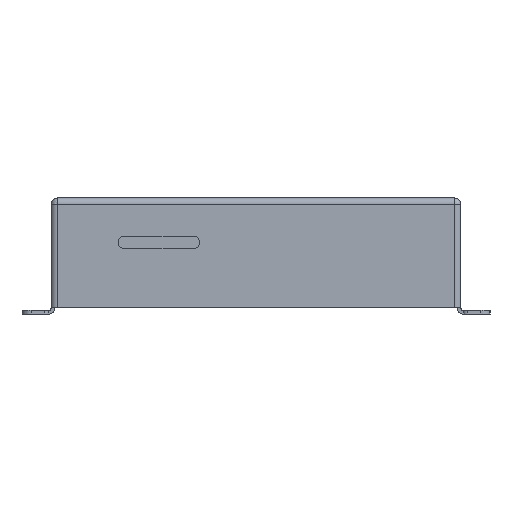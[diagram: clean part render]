
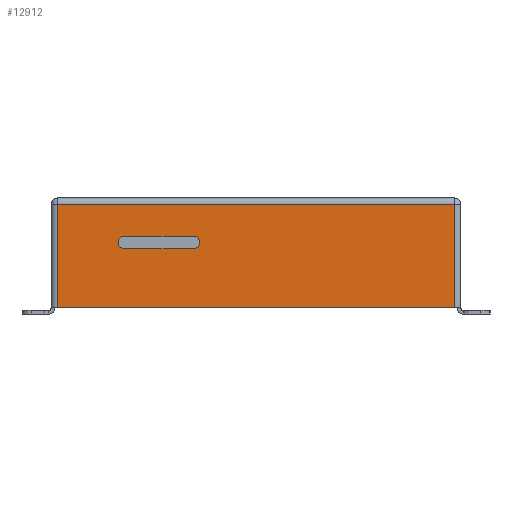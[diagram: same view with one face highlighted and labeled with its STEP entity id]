
A CAD part, left-side view. The second image highlights one B-rep face of the part: STEP entity #12912.
In plain terms, the highlighted planar face has unit normal (-1, 0, 0).
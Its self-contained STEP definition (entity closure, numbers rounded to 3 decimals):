
#4477=DIRECTION('',(0.,-1.,0.));
#4478=VECTOR('',#4477,109.6);
#4479=CARTESIAN_POINT('',(-111.2,54.8,-30.263));
#4480=LINE('',#4479,#4478);
#4691=CARTESIAN_POINT('',(-111.2,36.25,-12.25));
#4692=DIRECTION('',(1.,0.,0.));
#4693=DIRECTION('',(0.,0.,-1.));
#4694=AXIS2_PLACEMENT_3D('',#4691,#4692,#4693);
#4704=DIRECTION('',(0.,0.,-1.));
#4705=VECTOR('',#4704,28.527);
#4706=CARTESIAN_POINT('',(-111.2,54.8,-1.737));
#4707=LINE('',#4706,#4705);
#4708=CARTESIAN_POINT('',(-111.2,54.763,-1.737));
#4709=DIRECTION('',(-1.,0.,0.));
#4710=DIRECTION('',(0.,0.,1.));
#4711=AXIS2_PLACEMENT_3D('',#4708,#4709,#4710);
#4713=DIRECTION('',(0.,1.,0.));
#4714=VECTOR('',#4713,109.527);
#4715=CARTESIAN_POINT('',(-111.2,-54.763,-1.7));
#4716=LINE('',#4715,#4714);
#4717=CARTESIAN_POINT('',(-111.2,-54.763,-1.737));
#4718=DIRECTION('',(-1.,0.,0.));
#4719=DIRECTION('',(0.,-1.,0.));
#4720=AXIS2_PLACEMENT_3D('',#4717,#4718,#4719);
#4722=DIRECTION('',(0.,0.,1.));
#4723=VECTOR('',#4722,28.527);
#4724=CARTESIAN_POINT('',(-111.2,-54.8,-30.263));
#4725=LINE('',#4724,#4723);
#4758=DIRECTION('',(0.,-1.,0.));
#4759=VECTOR('',#4758,19.);
#4760=CARTESIAN_POINT('',(-111.2,36.25,-14.));
#4761=LINE('',#4760,#4759);
#4762=DIRECTION('',(0.,1.,0.));
#4763=VECTOR('',#4762,19.);
#4764=CARTESIAN_POINT('',(-111.2,17.25,-10.5));
#4765=LINE('',#4764,#4763);
#5089=CARTESIAN_POINT('',(-111.2,17.25,-12.25));
#5090=DIRECTION('',(1.,0.,0.));
#5091=DIRECTION('',(0.,0.,1.));
#5092=AXIS2_PLACEMENT_3D('',#5089,#5090,#5091);
#6290=CARTESIAN_POINT('',(-111.2,54.763,-1.7));
#6291=CARTESIAN_POINT('',(-111.2,54.8,-1.737));
#6292=VERTEX_POINT('',#6290);
#6293=VERTEX_POINT('',#6291);
#6298=CARTESIAN_POINT('',(-111.2,-54.763,-1.7));
#6299=VERTEX_POINT('',#6298);
#6302=CARTESIAN_POINT('',(-111.2,-54.8,-1.737));
#6303=VERTEX_POINT('',#6302);
#6338=CARTESIAN_POINT('',(-111.2,36.25,-14.));
#6339=CARTESIAN_POINT('',(-111.2,17.25,-14.));
#6340=VERTEX_POINT('',#6338);
#6341=VERTEX_POINT('',#6339);
#6342=CARTESIAN_POINT('',(-111.2,17.25,-10.5));
#6343=CARTESIAN_POINT('',(-111.2,36.25,-10.5));
#6344=VERTEX_POINT('',#6342);
#6345=VERTEX_POINT('',#6343);
#6610=CARTESIAN_POINT('',(-111.2,54.8,-30.263));
#6612=VERTEX_POINT('',#6610);
#6615=CARTESIAN_POINT('',(-111.2,-54.8,-30.263));
#6617=VERTEX_POINT('',#6615);
#12886=CARTESIAN_POINT('',(-111.2,54.763,-1.737));
#12887=DIRECTION('',(-1.,0.,0.));
#12888=DIRECTION('',(0.,0.,1.));
#12889=AXIS2_PLACEMENT_3D('',#12886,#12887,#12888);
#12890=PLANE('',#12889);
#12892=ORIENTED_EDGE('',*,*,#12891,.F.);
#12894=ORIENTED_EDGE('',*,*,#12893,.F.);
#12896=ORIENTED_EDGE('',*,*,#12895,.F.);
#12898=ORIENTED_EDGE('',*,*,#12897,.F.);
#12900=ORIENTED_EDGE('',*,*,#12899,.F.);
#12901=ORIENTED_EDGE('',*,*,#12565,.F.);
#12902=EDGE_LOOP('',(#12892,#12894,#12896,#12898,#12900,#12901));
#12903=FACE_OUTER_BOUND('',#12902,.F.);
#12904=ORIENTED_EDGE('',*,*,#12865,.F.);
#12905=ORIENTED_EDGE('',*,*,#12877,.T.);
#12907=ORIENTED_EDGE('',*,*,#12906,.F.);
#12909=ORIENTED_EDGE('',*,*,#12908,.T.);
#12910=EDGE_LOOP('',(#12904,#12905,#12907,#12909));
#12911=FACE_BOUND('',#12910,.F.);
#12912=ADVANCED_FACE('',(#12903,#12911),#12890,.T.);
#4695=CIRCLE('',#4694,1.75);
#4712=CIRCLE('',#4711,0.037);
#4721=CIRCLE('',#4720,0.037);
#5093=CIRCLE('',#5092,1.75);
#12565=EDGE_CURVE('',#6612,#6617,#4480,.T.);
#12865=EDGE_CURVE('',#6340,#6345,#4695,.T.);
#12877=EDGE_CURVE('',#6340,#6341,#4761,.T.);
#12891=EDGE_CURVE('',#6293,#6612,#4707,.T.);
#12893=EDGE_CURVE('',#6292,#6293,#4712,.T.);
#12895=EDGE_CURVE('',#6299,#6292,#4716,.T.);
#12897=EDGE_CURVE('',#6303,#6299,#4721,.T.);
#12899=EDGE_CURVE('',#6617,#6303,#4725,.T.);
#12906=EDGE_CURVE('',#6344,#6341,#5093,.T.);
#12908=EDGE_CURVE('',#6344,#6345,#4765,.T.);
